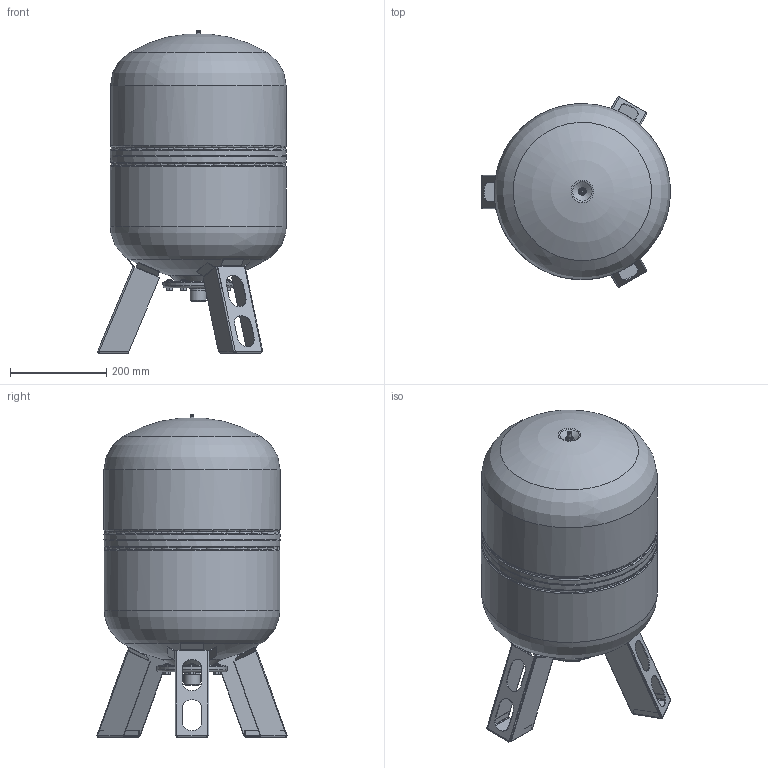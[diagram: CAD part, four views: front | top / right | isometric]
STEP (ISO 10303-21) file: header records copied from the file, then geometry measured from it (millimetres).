
FILE_DESCRIPTION(('STEP AP214'), '1');
FILE_NAME('WAV-50_2', '', ('UNSPECIFIED'), ('UNSPECIFIED'), 'ASCON STEP Converter 1.3', 'ASCON Math Kernel', '');
FILE_SCHEMA(('AUTOMOTIVE_DESIGN { 1 0 10303 214 3 1 1}'));
Length unit declared in the file: millimetre
Bounding box: 391.71 x 394.43 x 669 mm (x, y, z)
Volume: 46233690.9 mm3; surface area: 919663.4 mm2
Topology: 4 solids, 4 shells, 377 faces, 1026 edges, 689 vertices
Faces by surface type: plane 226, cylinder 92, cone 33, torus 24, sphere 2
Full cylindrical faces by diameter (mm): 4 x7, 5.5 x1, 8 x7, 12 x3, 14 x6, 27.1 x1, 33.25 x1, 33.5 x1, 140 x1, 365 x4
Entity records: 16503 total; most frequent: CARTESIAN_POINT 3994, DIRECTION 1966, ORIENTED_EDGE 1894, EDGE_CURVE 947, AXIS2_PLACEMENT_3D 731, VERTEX_POINT 689, EDGE_LOOP 506, LINE 504
